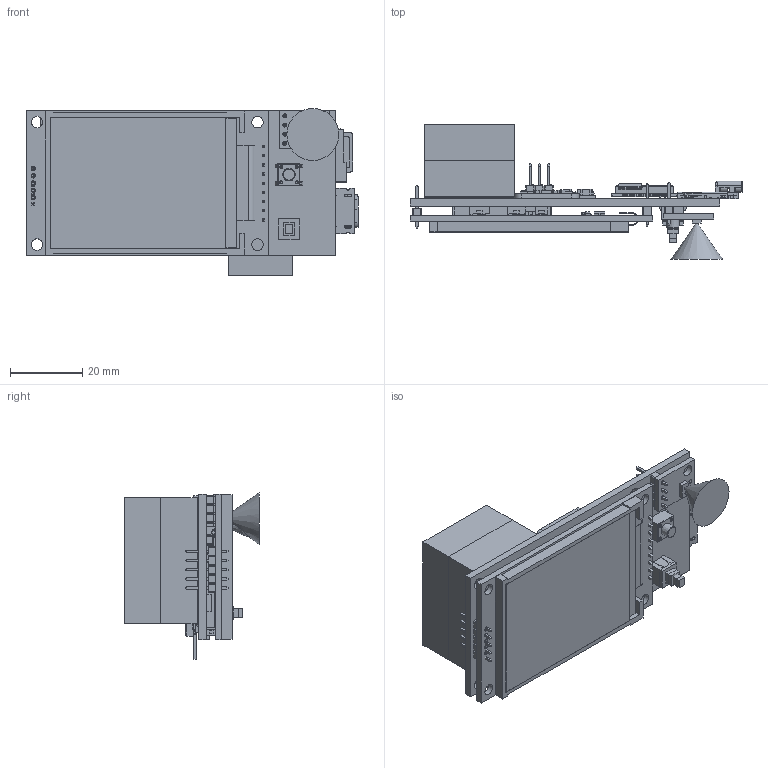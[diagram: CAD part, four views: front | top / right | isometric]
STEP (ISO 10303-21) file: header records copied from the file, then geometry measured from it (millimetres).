
FILE_DESCRIPTION(/* description */ (''),/* implementation_level */ '2;1');
FILE_NAME(/* name */ 'Lumi_Electronics v7.step',/* time_stamp */ '2025-05-14T19:01:05+05:30',/* author */ (''),/* organization */ (''),/* preprocessor_version */ 'ST-DEVELOPER v20.1',/* originating_system */ 'Autodesk Translation Framework v14.4.0.0',/* authorisation */ '');
FILE_SCHEMA (('AUTOMOTIVE_DESIGN { 1 0 10303 214 3 1 1 }'));
Products named in the file (117): Lumi_Electronics; 2.2 TFT LCD Display Modul 240x320; COMPOUND007; SOLID001; Loetauge001; Loetauge002; Loetauge004; Loetauge003; Sketch003; Loetauge005; 9_Pin_Header; SD_Card_Slot; PZ_TransistorSMD; COMPOUND005; Pad010; PZ_TransistorSMD001; Extrude002; Display001; DisplayConnecter001; Body003; COMPOUND004; COMPOUND006; ZL201-40_P2-54_L101_W2-54_H8-9; 5-Pin Header - Male - 2.54mm; PCB; LatchSwitch_5.8x5.8; Tactal Switch -THru (6mmx 6mmx4.3mm); TOF_VLCOS; ZL201-40_P2-54_L101_W2-54_H8-9_1; 4-Pin Header - Male - 2.54mm; Component1; RangeOfDetection; MBEC2A; pcb_1; silkscreen; bottom; top; solder_pads; smds; 1608 (682)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
Assembly tree (134 placements, depth 5):
  Lumi_Electronics
    2.2 TFT LCD Display Modul 240x320
      COMPOUND007
      SOLID001
      Loetauge001
      Loetauge002
      Loetauge004
      Loetauge003
      Sketch003
      Loetauge005
      9_Pin_Header
      SD_Card_Slot
      PZ_TransistorSMD
      COMPOUND005
      Pad010
      PZ_TransistorSMD001
      Extrude002
      Display001
      DisplayConnecter001
      Body003
      COMPOUND004
      COMPOUND006
      ZL201-40_P2-54_L101_W2-54_H8-9
        5-Pin Header - Male - 2.54mm
    PCB
    LatchSwitch_5.8x5.8
    Tactal Switch -THru (6mmx 6mmx4.3mm)
    TOF_VLCOS
      ZL201-40_P2-54_L101_W2-54_H8-9_1
        4-Pin Header - Male - 2.54mm
      Component1
      RangeOfDetection
    MBEC2A
      pcb_1
      silkscreen
        bottom
        top
      solder_pads
      smds
        1608  x3
        1608 (682)
        3216
        1608 (54C)
        1608 (90C)  x2
        3225  x2
        1608 (220)
        mp2315
          pins
        1608 (60B)
        6r8
          pins (1)
        1608 (30C)
    WLY102535 950 mAh 3.7V Lipo Battery x2
    ASSEMBLY
      ESP-WROOM-32
    AP7361-33E-13  x2
    MAX98357A_3W_I2S_AMP
      PCB_2
      QFN-16 (4x4x0.9)
        QFN-16 (4x4x0.9)_1
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Bounding box: 92.06 x 37.22 x 46.3 mm (x, y, z)
Volume: 39761.8 mm3; surface area: 36911.6 mm2
Topology: 313 solids, 333 shells, 10057 faces, 26430 edges, 17216 vertices
Faces by surface type: plane 6538, bspline 2190, cylinder 1184, sphere 64, cone 50, torus 31
Full cylindrical faces by diameter (mm): 0.3 x3, 0.4 x25, 0.411 x1, 0.5 x4, 0.6 x1, 0.8 x19, 0.848 x4, 1 x4, 1.1 x10, 1.2 x22, 1.3 x9, 1.5 x2, 1.6 x3, 1.9 x9, 2.1 x4, 2.2 x2, 2.6 x2, 2.7 x2, 3.1 x1, 3.2 x8, 3.25 x2
Entity records: 315577 total; most frequent: CARTESIAN_POINT 90176, ORIENTED_EDGE 49238, DIRECTION 37642, EDGE_CURVE 24619, LINE 18190, VECTOR 18190, VERTEX_POINT 16126, EDGE_LOOP 9939
